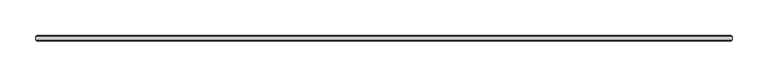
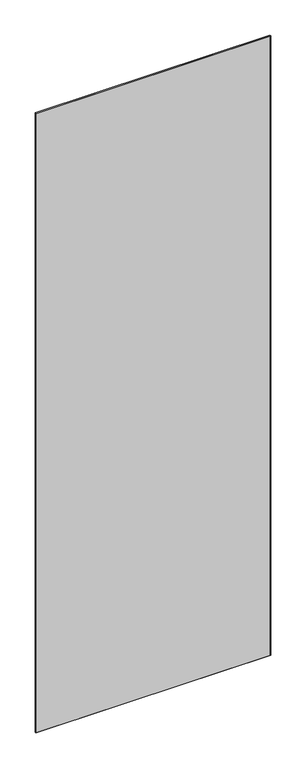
"""IFC4 building model written with IfcOpenShell, lengths in millimetres: plate geometry, 1-AMG-1-Панель одинарный витраж 8, 10 : Смещение 32 Толщина 8mm."""

from ifc_helpers import new_model, si_unit, origin, place, context, project, spatial, faceted_brep, source, transform, mapped, element, save


def plate_74ec5076(model_context):
    return source(origin(), model_context, "Body", "Brep", [
        faceted_brep([(491.9037788, 29.5038347, 2722.8), (491.9037788, 34.4961653, 2722.8), (-486.9037788, 34.4961653, 2722.8), (-486.9037788, 29.5038347, 2722.8), (491.9037788, 34.4961653, -7.0), (491.9037788, 29.5038347, -7.0), (-486.9037788, 29.5038347, -7.0), (-486.9037788, 34.4961653, -7.0), (-485.3999441, 36.0, 2721.2961653), (490.3999441, 36.0, 2721.2961653), (490.3999441, 36.0, -5.5039422), (-485.3999441, 36.0, -5.5039422), (490.3999441, 28.0, 2721.2961653), (-485.3999441, 28.0, 2721.2961653), (-485.3999441, 28.0, -5.4961653), (490.3999441, 28.0, -5.4961653)], [[[0, 1, 2, 3]], [[4, 5, 6, 7]], [[8, 9, 10, 11]], [[3, 2, 7, 6]], [[12, 13, 14, 15]], [[1, 0, 5, 4]], [[1, 4, 10, 9]], [[5, 0, 12, 15]], [[7, 2, 8, 11]], [[3, 6, 14, 13]], [[0, 3, 13, 12]], [[2, 1, 9, 8]], [[6, 5, 15, 14]], [[4, 7, 11, 10]]]),
    ])


if __name__ == "__main__":
    model = new_model("IFC4")
    model_context = context("Model", 3, world=origin())
    ifc_project = project(units=[si_unit("LENGTHUNIT", "METRE", prefix="MILLI")], contexts=[model_context])
    site = spatial("IfcSite", under=ifc_project)
    building = spatial("IfcBuilding", under=site)
    placement = place(None, origin())
    plate_shape = plate_74ec5076(model_context)
    element("IfcPlate", 1, ObjectType="1-AMG-1-Панель одинарный витраж 8, 10 : Смещение 32 Толщина 8mm", at=placement, inside=building, context=model_context, shape_type="MappedRepresentation", body=[
        mapped(plate_shape, transform((0.0, 0.0, 0.0), x_axis=(1.0, 0.0, 0.0), y_axis=(0.0, 1.0, 0.0), z_axis=(0.0, 0.0, 1.0))),
    ])
    save(model, "model.ifc")
